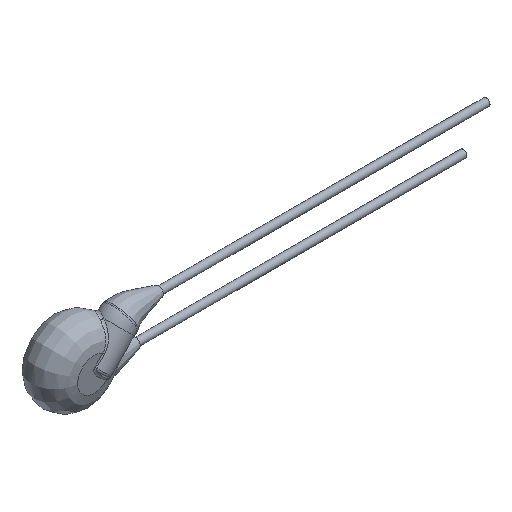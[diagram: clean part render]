
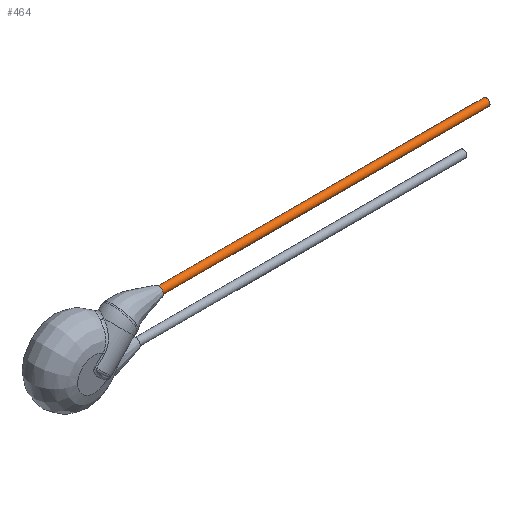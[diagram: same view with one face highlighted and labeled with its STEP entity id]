
A CAD part, isometric view. The second image highlights one B-rep face of the part: STEP entity #464.
In plain terms, the highlighted cylindrical face has radius 0.3 mm (diameter 0.6 mm), a full revolution.
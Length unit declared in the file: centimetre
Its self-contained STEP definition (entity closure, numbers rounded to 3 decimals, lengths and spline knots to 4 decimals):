
#32=CYLINDRICAL_SURFACE('',#508,0.03);
#80=FACE_BOUND('',#145,.T.);
#109=FACE_OUTER_BOUND('',#144,.T.);
#144=EDGE_LOOP('',(#393));
#145=EDGE_LOOP('',(#394));
#153=CIRCLE('',#475,0.03);
#176=CIRCLE('',#509,0.03);
#181=VERTEX_POINT('',#617);
#214=VERTEX_POINT('',#1630);
#219=EDGE_CURVE('',#181,#181,#153,.T.);
#275=EDGE_CURVE('',#214,#214,#176,.T.);
#393=ORIENTED_EDGE('',*,*,#219,.T.);
#394=ORIENTED_EDGE('',*,*,#275,.F.);
#464=ADVANCED_FACE('',(#109,#80),#32,.T.);
#475=AXIS2_PLACEMENT_3D('',#618,#526,#527);
#508=AXIS2_PLACEMENT_3D('',#1629,#596,#597);
#509=AXIS2_PLACEMENT_3D('',#1631,#598,#599);
#526=DIRECTION('center_axis',(1.,0.,0.));
#527=DIRECTION('ref_axis',(0.,1.,0.));
#596=DIRECTION('center_axis',(-1.,0.,0.));
#597=DIRECTION('ref_axis',(0.,1.,0.));
#598=DIRECTION('center_axis',(1.,0.,0.));
#599=DIRECTION('ref_axis',(0.,1.,0.));
#617=CARTESIAN_POINT('',(0.625,-0.06,0.2312));
#618=CARTESIAN_POINT('Origin',(0.625,-0.03,0.2312));
#1629=CARTESIAN_POINT('Origin',(3.325,-0.03,0.2312));
#1630=CARTESIAN_POINT('',(3.325,-0.06,0.2312));
#1631=CARTESIAN_POINT('Origin',(3.325,-0.03,0.2312));
